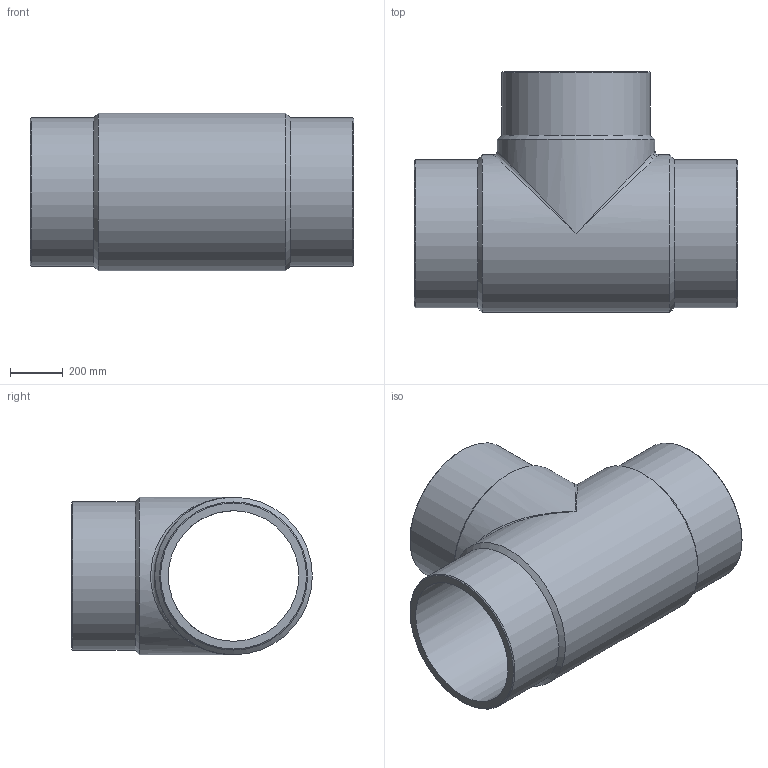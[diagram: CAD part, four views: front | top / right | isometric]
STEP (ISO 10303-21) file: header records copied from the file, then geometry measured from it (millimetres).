
FILE_DESCRIPTION(/* description */ ('Unknown'),/* implementation_level */ '2;1');
FILE_NAME(/* name */ 'TP560B',/* time_stamp */ '2022-06-06T17:20:52+02:00',/* author */ ('Unknown'),/* organization */ ('Unknown'),/* preprocessor_version */ 'ST-DEVELOPER v18.102',/* originating_system */ 'Solid Edge',/* authorisation */ 'Unknown');
FILE_SCHEMA (('AUTOMOTIVE_DESIGN {1 0 10303 214 3 1 1}'));
Length unit declared in the file: millimetre
Products named in the file (1): TP560B
Bounding box: 1222 x 910 x 596 mm (x, y, z)
Volume: 105900903.6 mm3; surface area: 5187817.9 mm2
Topology: 1 solids, 1 shells, 18 faces, 44 edges, 23 vertices
Faces by surface type: cylinder 7, cone 6, plane 3, bspline 2
Full cylindrical faces by diameter (mm): 493.6 x2, 560 x3, 596 x2
Entity records: 528 total; most frequent: CARTESIAN_POINT 171, DIRECTION 76, ORIENTED_EDGE 42, AXIS2_PLACEMENT_3D 38, EDGE_LOOP 36, FACE_BOUND 36, EDGE_CURVE 21, VERTEX_POINT 19
